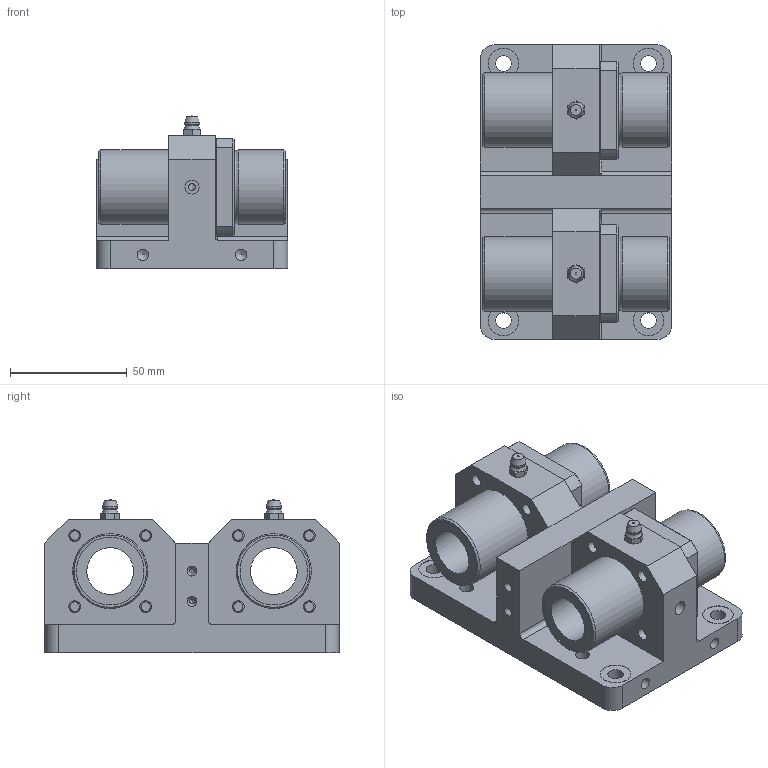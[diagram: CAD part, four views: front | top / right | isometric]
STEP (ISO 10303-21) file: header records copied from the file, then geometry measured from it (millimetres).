
FILE_DESCRIPTION((''),'2;1');
FILE_NAME('D:\製品 (図面)\カタログ用3D\リニアベアリング関連\STEP形式\LUFD\LUFD20.stp','2010-07-29T14:34:00',('Tsuchiya'),(''),'Autodesk Inventor 10','Autodesk Inventor 10','');
FILE_SCHEMA(('AUTOMOTIVE_DESIGN { 1 0 10303 214 1 1 1 1 }'));
Length unit declared in the file: millimetre
Products named in the file (4): LUFD20; LUFD201; LUFD202; LUFD203
Assembly tree (3 placements, depth 2):
  LUFD20
    LUFD201
    LUFD202
    LUFD203
Bounding box: 82 x 126 x 65.8 mm (x, y, z)
Volume: 316106.4 mm3; surface area: 86686.6 mm2
Topology: 13 solids, 13 shells, 386 faces, 866 edges, 548 vertices
Faces by surface type: plane 160, bspline 77, cylinder 73, cone 60, torus 12, sphere 4
Full cylindrical faces by diameter (mm): 3 x3, 5 x12, 6 x6, 6.6 x2, 8.5 x8, 13 x2, 20 x2, 29 x4, 32 x7
Entity records: 11852 total; most frequent: CARTESIAN_POINT 4354, DIRECTION 1434, ORIENTED_EDGE 1352, EDGE_CURVE 676, EDGE_LOOP 640, AXIS2_PLACEMENT_3D 594, VERTEX_POINT 506, FACE_OUTER_BOUND 386
